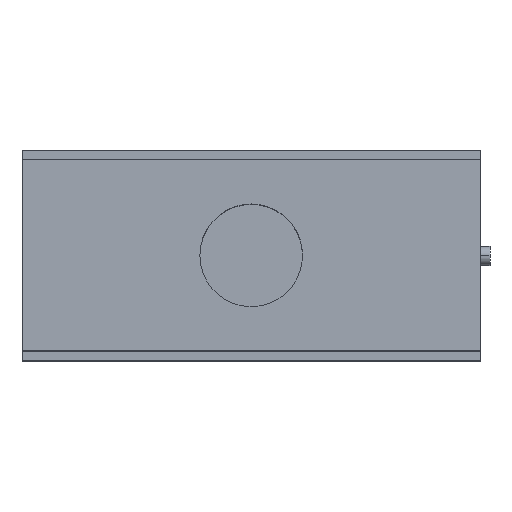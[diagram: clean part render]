
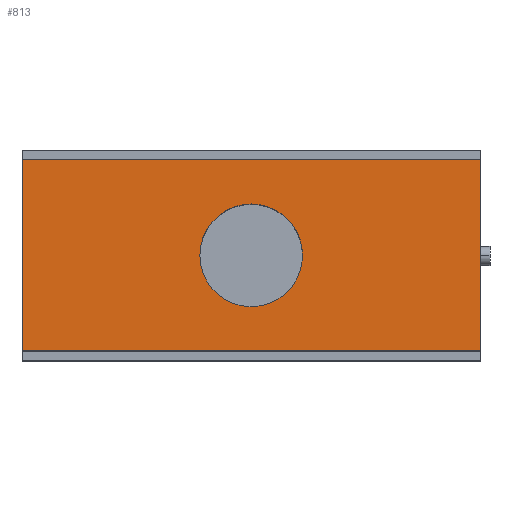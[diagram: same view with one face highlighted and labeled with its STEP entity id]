
A CAD part, top view. The second image highlights one B-rep face of the part: STEP entity #813.
In plain terms, the highlighted planar face has unit normal (0, 0, 1).
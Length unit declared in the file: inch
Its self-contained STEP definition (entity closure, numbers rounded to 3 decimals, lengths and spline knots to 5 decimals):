
#353 = CARTESIAN_POINT ( 'NONE',  ( 0., 2.5, 10. ) ) ;
#354 = DIRECTION ( 'NONE',  ( 1., 0., 0. ) ) ;
#355 = VECTOR ( 'NONE', #354, 39.37008 ) ;
#356 = CARTESIAN_POINT ( 'NONE',  ( -6.0764, 2.5, 10. ) ) ;
#357 = LINE ( 'NONE', #356, #355 ) ;
#377 = PLANE ( 'NONE',  #402 ) ;
#378 = FACE_BOUND ( 'NONE', #795, .T. ) ;
#379 = FACE_OUTER_BOUND ( 'NONE', #808, .T. ) ;
#380 = CARTESIAN_POINT ( 'NONE',  ( 0., 0., 10. ) ) ;
#399 = DIRECTION ( 'NONE',  ( -1., 0., 0. ) ) ;
#400 = DIRECTION ( 'NONE',  ( 0., 0., -1. ) ) ;
#401 = CARTESIAN_POINT ( 'NONE',  ( -6.0764, 2.5, 10. ) ) ;
#402 = AXIS2_PLACEMENT_3D ( 'NONE', #401, #400, #399 ) ;
#428 = DIRECTION ( 'NONE',  ( 0., 0., 1. ) ) ;
#429 = CARTESIAN_POINT ( 'NONE',  ( 3., 1.25, 10. ) ) ;
#430 = AXIS2_PLACEMENT_3D ( 'NONE', #429, #428, #505 ) ;
#431 = CIRCLE ( 'NONE', #430, 0.6719 ) ;
#433 = DIRECTION ( 'NONE',  ( 0., -1., 0. ) ) ;
#434 = VECTOR ( 'NONE', #433, 39.37008 ) ;
#435 = CARTESIAN_POINT ( 'NONE',  ( 0., 2.5, 10. ) ) ;
#436 = LINE ( 'NONE', #435, #434 ) ;
#505 = DIRECTION ( 'NONE',  ( 1., 0., 0. ) ) ;
#520 = LINE ( 'NONE', #521, #663 ) ;
#521 = CARTESIAN_POINT ( 'NONE',  ( 6., 2.5, 10. ) ) ;
#552 = CARTESIAN_POINT ( 'NONE',  ( 2.3281, 1.25, 10. ) ) ;
#574 = CARTESIAN_POINT ( 'NONE',  ( 6., 0., 10. ) ) ;
#610 = DIRECTION ( 'NONE',  ( 1., 0., 0. ) ) ;
#611 = VECTOR ( 'NONE', #610, 39.37008 ) ;
#621 = DIRECTION ( 'NONE',  ( 1., 0., 0. ) ) ;
#622 = DIRECTION ( 'NONE',  ( 0., 0., 1. ) ) ;
#623 = CARTESIAN_POINT ( 'NONE',  ( 3., 1.25, 10. ) ) ;
#624 = AXIS2_PLACEMENT_3D ( 'NONE', #623, #622, #621 ) ;
#625 = CIRCLE ( 'NONE', #624, 0.6719 ) ;
#630 = CARTESIAN_POINT ( 'NONE',  ( -6.0764, 0., 10. ) ) ;
#631 = LINE ( 'NONE', #630, #611 ) ;
#651 = DIRECTION ( 'NONE',  ( 0., -1., 0. ) ) ;
#658 = CARTESIAN_POINT ( 'NONE',  ( 3.6719, 1.25, 10. ) ) ;
#663 = VECTOR ( 'NONE', #651, 39.37008 ) ;
#676 = CARTESIAN_POINT ( 'NONE',  ( 6., 2.5, 10. ) ) ;
#792 = ORIENTED_EDGE ( 'NONE', *, *, #798, .F. ) ;
#793 = EDGE_CURVE ( 'NONE', #796, #826, #357, .T. ) ;
#795 = EDGE_LOOP ( 'NONE', ( #792, #801 ) ) ;
#796 = VERTEX_POINT ( 'NONE', #353 ) ;
#797 = EDGE_CURVE ( 'NONE', #796, #812, #436, .T. ) ;
#798 = EDGE_CURVE ( 'NONE', #839, #854, #431, .T. ) ;
#800 = ORIENTED_EDGE ( 'NONE', *, *, #797, .T. ) ;
#801 = ORIENTED_EDGE ( 'NONE', *, *, #843, .F. ) ;
#803 = ORIENTED_EDGE ( 'NONE', *, *, #793, .F. ) ;
#804 = ORIENTED_EDGE ( 'NONE', *, *, #818, .F. ) ;
#808 = EDGE_LOOP ( 'NONE', ( #823, #804, #803, #800 ) ) ;
#812 = VERTEX_POINT ( 'NONE', #380 ) ;
#813 = ADVANCED_FACE ( 'NONE', ( #379, #378 ), #377, .F. ) ;
#818 = EDGE_CURVE ( 'NONE', #826, #832, #520, .T. ) ;
#823 = ORIENTED_EDGE ( 'NONE', *, *, #824, .T. ) ;
#824 = EDGE_CURVE ( 'NONE', #812, #832, #631, .T. ) ;
#826 = VERTEX_POINT ( 'NONE', #676 ) ;
#832 = VERTEX_POINT ( 'NONE', #574 ) ;
#839 = VERTEX_POINT ( 'NONE', #658 ) ;
#843 = EDGE_CURVE ( 'NONE', #854, #839, #625, .T. ) ;
#854 = VERTEX_POINT ( 'NONE', #552 ) ;
